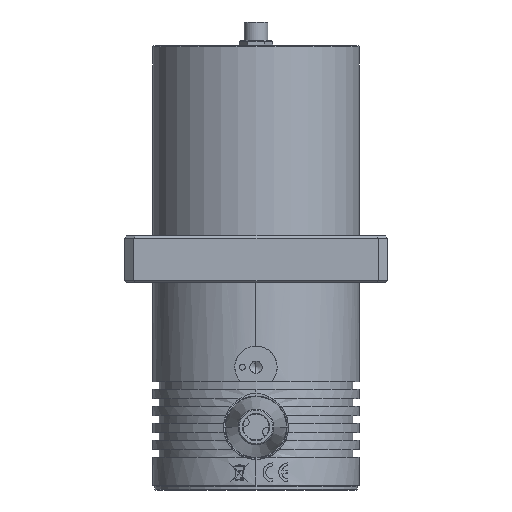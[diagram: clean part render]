
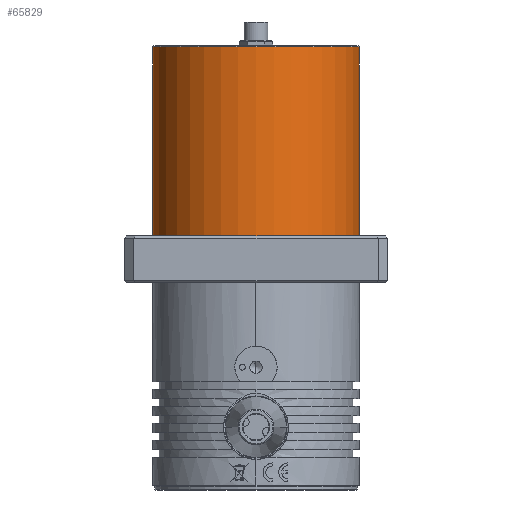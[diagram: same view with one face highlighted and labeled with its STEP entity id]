
A CAD part, front view. The second image highlights one B-rep face of the part: STEP entity #65829.
In plain terms, the highlighted cylindrical face has radius 27.94 mm (diameter 55.88 mm), a partial arc.
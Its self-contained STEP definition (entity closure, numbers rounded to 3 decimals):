
#1458 = ORIENTED_EDGE ( 'NONE', *, *, #110176, .T. ) ;
#2932 = AXIS2_PLACEMENT_3D ( 'NONE', #39231, #128746, #81664 ) ;
#4567 = DIRECTION ( 'NONE',  ( 0., 0., 1. ) ) ;
#6754 = VECTOR ( 'NONE', #98889, 1000. ) ;
#8291 = DIRECTION ( 'NONE',  ( 1., 0., 0. ) ) ;
#19484 = VERTEX_POINT ( 'NONE', #68716 ) ;
#22209 = CIRCLE ( 'NONE', #28432, 27.94 ) ;
#23322 = CARTESIAN_POINT ( 'NONE',  ( 27.94, 0., -27.051 ) ) ;
#24179 = DIRECTION ( 'NONE',  ( 1., 0., 0. ) ) ;
#28432 = AXIS2_PLACEMENT_3D ( 'NONE', #113669, #84260, #24179 ) ;
#29625 = CARTESIAN_POINT ( 'NONE',  ( -27.94, 0., 27.305 ) ) ;
#37014 = EDGE_CURVE ( 'NONE', #123110, #19484, #109982, .T. ) ;
#38973 = FACE_OUTER_BOUND ( 'NONE', #61333, .T. ) ;
#39231 = CARTESIAN_POINT ( 'NONE',  ( 0., 0., -27.051 ) ) ;
#40487 = CIRCLE ( 'NONE', #2932, 27.94 ) ;
#60033 = ORIENTED_EDGE ( 'NONE', *, *, #118543, .T. ) ;
#61131 = CARTESIAN_POINT ( 'NONE',  ( -27.94, 0., -27.051 ) ) ;
#61333 = EDGE_LOOP ( 'NONE', ( #72847, #1458, #95143, #60033 ) ) ;
#63392 = CARTESIAN_POINT ( 'NONE',  ( 27.94, 0., 27.305 ) ) ;
#65829 = ADVANCED_FACE ( 'NONE', ( #38973 ), #127207, .T. ) ;
#67113 = CARTESIAN_POINT ( 'NONE',  ( 0., 0., 27.305 ) ) ;
#68716 = CARTESIAN_POINT ( 'NONE',  ( -27.94, 0., 24.003 ) ) ;
#70954 = EDGE_CURVE ( 'NONE', #116793, #119167, #94703, .T. ) ;
#71461 = CARTESIAN_POINT ( 'NONE',  ( 27.94, 0., 24.003 ) ) ;
#72847 = ORIENTED_EDGE ( 'NONE', *, *, #37014, .F. ) ;
#73230 = AXIS2_PLACEMENT_3D ( 'NONE', #67113, #86053, #8291 ) ;
#81664 = DIRECTION ( 'NONE',  ( -1., 0., 0. ) ) ;
#84260 = DIRECTION ( 'NONE',  ( 0., 0., -1. ) ) ;
#86053 = DIRECTION ( 'NONE',  ( 0., 0., 1. ) ) ;
#94703 = LINE ( 'NONE', #63392, #123941 ) ;
#95143 = ORIENTED_EDGE ( 'NONE', *, *, #70954, .T. ) ;
#98889 = DIRECTION ( 'NONE',  ( 0., 0., 1. ) ) ;
#109982 = LINE ( 'NONE', #29625, #6754 ) ;
#110176 = EDGE_CURVE ( 'NONE', #123110, #116793, #40487, .T. ) ;
#113669 = CARTESIAN_POINT ( 'NONE',  ( 0., 0., 24.003 ) ) ;
#116793 = VERTEX_POINT ( 'NONE', #23322 ) ;
#118543 = EDGE_CURVE ( 'NONE', #119167, #19484, #22209, .T. ) ;
#119167 = VERTEX_POINT ( 'NONE', #71461 ) ;
#123110 = VERTEX_POINT ( 'NONE', #61131 ) ;
#123941 = VECTOR ( 'NONE', #4567, 1000. ) ;
#127207 = CYLINDRICAL_SURFACE ( 'NONE', #73230, 27.94 ) ;
#128746 = DIRECTION ( 'NONE',  ( 0., 0., 1. ) ) ;
